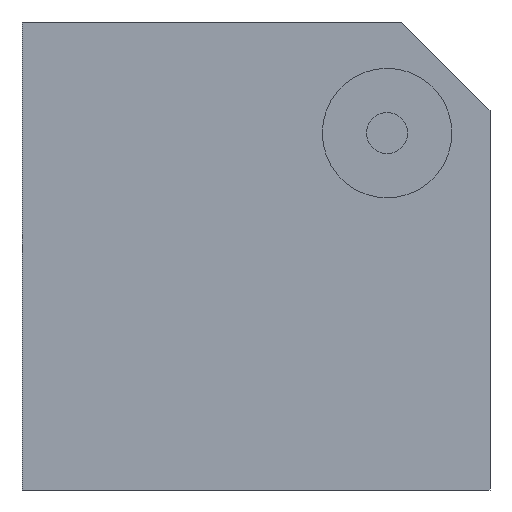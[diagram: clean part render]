
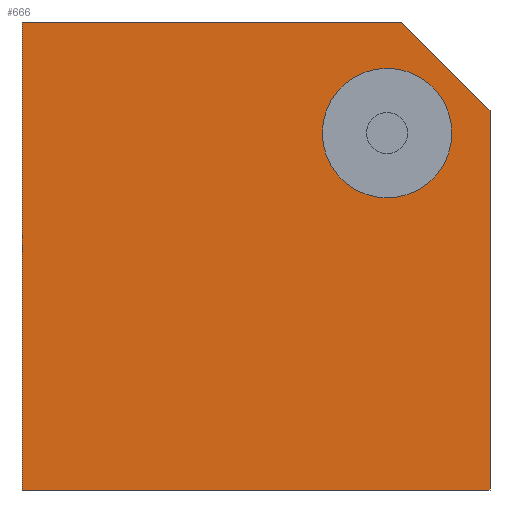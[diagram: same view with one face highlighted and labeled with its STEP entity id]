
A CAD part, left-side view. The second image highlights one B-rep face of the part: STEP entity #666.
In plain terms, the highlighted planar face has unit normal (-1, 0, 0).
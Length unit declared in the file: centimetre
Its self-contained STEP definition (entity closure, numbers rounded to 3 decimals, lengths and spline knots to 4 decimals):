
#7 = LINE ( 'NONE', #850, #330 ) ;
#32 = FACE_OUTER_BOUND ( 'NONE', #662, .T. ) ;
#48 = DIRECTION ( 'NONE',  ( 0., 0., -1. ) ) ;
#64 = CARTESIAN_POINT ( 'NONE',  ( 0., 1000., 0. ) ) ;
#68 = CARTESIAN_POINT ( 'NONE',  ( 0., 0., 810.1037 ) ) ;
#70 = CARTESIAN_POINT ( 'NONE',  ( 0., 1000., 1000. ) ) ;
#96 = CARTESIAN_POINT ( 'NONE',  ( 0., 219.8999, 901.018 ) ) ;
#106 = DIRECTION ( 'NONE',  ( 0., 0., 1. ) ) ;
#116 = CIRCLE ( 'NONE', #759, 138.3935 ) ;
#136 = EDGE_CURVE ( 'NONE', #728, #533, #621, .T. ) ;
#154 = ORIENTED_EDGE ( 'NONE', *, *, #796, .F. ) ;
#185 = CARTESIAN_POINT ( 'NONE',  ( 0., 219.8999, 762.6245 ) ) ;
#191 = CARTESIAN_POINT ( 'NONE',  ( 0., 1000., 0. ) ) ;
#193 = ORIENTED_EDGE ( 'NONE', *, *, #272, .F. ) ;
#212 = DIRECTION ( 'NONE',  ( 0., -1., 0. ) ) ;
#215 = AXIS2_PLACEMENT_3D ( 'NONE', #247, #904, #48 ) ;
#230 = VERTEX_POINT ( 'NONE', #530 ) ;
#231 = VECTOR ( 'NONE', #212, 100. ) ;
#239 = VERTEX_POINT ( 'NONE', #96 ) ;
#247 = CARTESIAN_POINT ( 'NONE',  ( 0., 1000., 1000. ) ) ;
#253 = VECTOR ( 'NONE', #584, 100. ) ;
#268 = ORIENTED_EDGE ( 'NONE', *, *, #136, .T. ) ;
#272 = EDGE_CURVE ( 'NONE', #314, #533, #280, .T. ) ;
#280 = LINE ( 'NONE', #628, #253 ) ;
#284 = EDGE_CURVE ( 'NONE', #393, #728, #766, .T. ) ;
#291 = CARTESIAN_POINT ( 'NONE',  ( 0., 1000., 1000. ) ) ;
#301 = DIRECTION ( 'NONE',  ( 0., -1., 0. ) ) ;
#314 = VERTEX_POINT ( 'NONE', #68 ) ;
#317 = PLANE ( 'NONE',  #215 ) ;
#329 = DIRECTION ( 'NONE',  ( -1., 0., 0. ) ) ;
#330 = VECTOR ( 'NONE', #504, 100. ) ;
#353 = EDGE_CURVE ( 'NONE', #314, #862, #7, .T. ) ;
#367 = CIRCLE ( 'NONE', #891, 138.3935 ) ;
#393 = VERTEX_POINT ( 'NONE', #70 ) ;
#403 = ORIENTED_EDGE ( 'NONE', *, *, #353, .T. ) ;
#409 = LINE ( 'NONE', #691, #231 ) ;
#415 = DIRECTION ( 'NONE',  ( 0., 0., 1. ) ) ;
#469 = ORIENTED_EDGE ( 'NONE', *, *, #284, .T. ) ;
#504 = DIRECTION ( 'NONE',  ( 0., 0.707, 0.707 ) ) ;
#520 = ORIENTED_EDGE ( 'NONE', *, *, #918, .F. ) ;
#530 = CARTESIAN_POINT ( 'NONE',  ( 0., 219.8999, 624.2309 ) ) ;
#533 = VERTEX_POINT ( 'NONE', #819 ) ;
#584 = DIRECTION ( 'NONE',  ( 0., 0., -1. ) ) ;
#600 = EDGE_LOOP ( 'NONE', ( #806, #154 ) ) ;
#621 = LINE ( 'NONE', #64, #761 ) ;
#628 = CARTESIAN_POINT ( 'NONE',  ( 0., 0., 1000. ) ) ;
#644 = EDGE_CURVE ( 'NONE', #239, #230, #116, .T. ) ;
#662 = EDGE_LOOP ( 'NONE', ( #193, #403, #520, #469, #268 ) ) ;
#666 = ADVANCED_FACE ( 'NONE', ( #814, #32 ), #317, .F. ) ;
#691 = CARTESIAN_POINT ( 'NONE',  ( 0., 1000., 1000. ) ) ;
#698 = CARTESIAN_POINT ( 'NONE',  ( 0., 189.8963, 1000. ) ) ;
#728 = VERTEX_POINT ( 'NONE', #191 ) ;
#759 = AXIS2_PLACEMENT_3D ( 'NONE', #185, #329, #106 ) ;
#761 = VECTOR ( 'NONE', #301, 100. ) ;
#766 = LINE ( 'NONE', #291, #920 ) ;
#796 = EDGE_CURVE ( 'NONE', #230, #239, #367, .T. ) ;
#806 = ORIENTED_EDGE ( 'NONE', *, *, #644, .F. ) ;
#814 = FACE_BOUND ( 'NONE', #600, .T. ) ;
#819 = CARTESIAN_POINT ( 'NONE',  ( 0., 0., 0. ) ) ;
#850 = CARTESIAN_POINT ( 'NONE',  ( 0., 189.8963, 1000. ) ) ;
#862 = VERTEX_POINT ( 'NONE', #698 ) ;
#891 = AXIS2_PLACEMENT_3D ( 'NONE', #908, #912, #415 ) ;
#904 = DIRECTION ( 'NONE',  ( 1., 0., 0. ) ) ;
#908 = CARTESIAN_POINT ( 'NONE',  ( 0., 219.8999, 762.6245 ) ) ;
#912 = DIRECTION ( 'NONE',  ( -1., 0., 0. ) ) ;
#917 = DIRECTION ( 'NONE',  ( 0., 0., -1. ) ) ;
#918 = EDGE_CURVE ( 'NONE', #393, #862, #409, .T. ) ;
#920 = VECTOR ( 'NONE', #917, 100. ) ;
